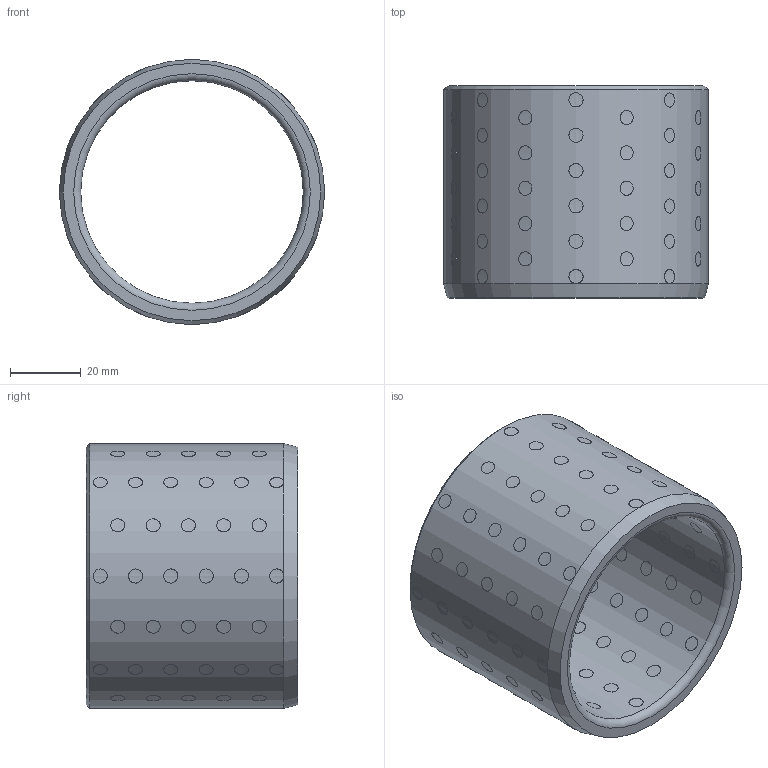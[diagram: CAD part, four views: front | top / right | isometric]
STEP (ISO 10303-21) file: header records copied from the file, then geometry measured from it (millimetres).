
FILE_DESCRIPTION( ( 'STEP AP203' ), '1' );
FILE_NAME( 'D:/Cuma/18 03 2010/D30.04/D30.04_636075.step', '2003-01-24T22:33:13', ( ' ' ), ( ' ' ), 'XStep 1.0', ' ', ' ' );
FILE_SCHEMA( ( 'CONFIG_CONTROL_DESIGN' ) );
Length unit declared in the file: metre
Products named in the file (97): 1; 2; 3; 4; 5; 6; 7; 8; 9; 10; 11; 12; 13; 14; 15; 16; 17; 18; 19; 20; 21; 22; 23; 24; 25; 26; 27; 28; 29; 30; 31; 32; 33; 34; 35; 36; 37; 38; 39; 40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
Bounding box: 75 x 60 x 75 mm (x, y, z)
Volume: 84316.7 mm3; surface area: 37566.5 mm2
Topology: 97 solids, 97 shells, 296 faces, 302 edges, 200 vertices
Faces by surface type: cylinder 290, torus 2, plane 2, cone 2
Full cylindrical faces by diameter (mm): 4 x96, 63 x1, 75 x1
Entity records: 19221 total; most frequent: CARTESIAN_POINT 11353, DIRECTION 802, CC_DESIGN_PERSON_AND_ORGANIZATION_ASSIGNMENT 485, AXIS2_PLACEMENT_3D 401, EDGE_LOOP 400, ORIENTED_EDGE 400, FACE_OUTER_BOUND 396, PERSON_AND_ORGANIZATION_ROLE 388
